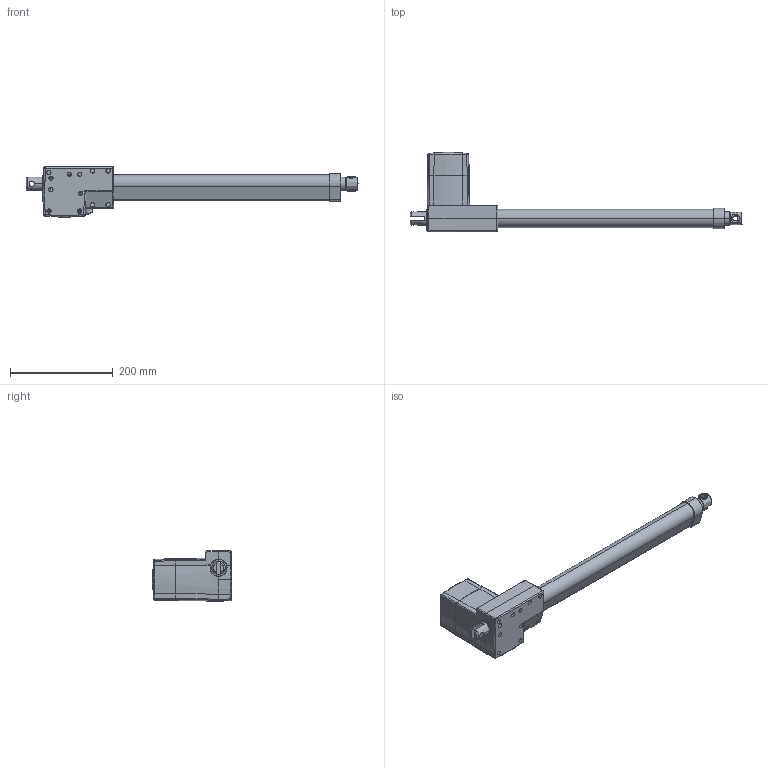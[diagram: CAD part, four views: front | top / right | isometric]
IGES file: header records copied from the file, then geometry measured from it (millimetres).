
Start section: SolidWorks IGES file using analytic representation for surfaces
Global section: file name: S:\R1一課\02-個人暫存資料\4137 廖麗芬\1223\LAM3-S400.IGS; native system: SolidWorks 2010; preprocessor: SolidWorks 2010; author: fuyao; date: 131223.141258; units: millimetre
Bounding box: 645 x 155 x 98 mm (x, y, z)
Surface area: 177206.2 mm2 (no closed solid volume)
Topology: 0 solids, 0 shells, 354 faces, 5228 edges, 5207 vertices
Faces by surface type: bspline 192, revolution 162
